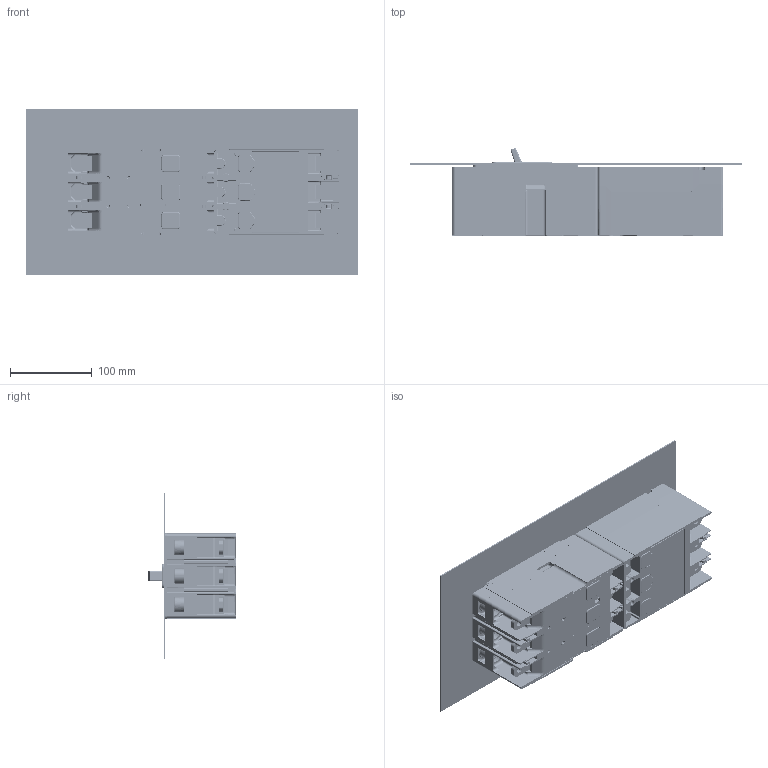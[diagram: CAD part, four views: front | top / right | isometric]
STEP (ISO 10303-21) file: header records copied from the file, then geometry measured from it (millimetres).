
FILE_DESCRIPTION((''),'2;1');
FILE_NAME('JG_BKR_JG_CL_ASM','2012-04-16T',('E0027121'),(''),'PRO/ENGINEER BY PARAMETRIC TECHNOLOGY CORPORATION, 2009460','PRO/ENGINEER BY PARAMETRIC TECHNOLOGY CORPORATION, 2009460','');
FILE_SCHEMA(('CONFIG_CONTROL_DESIGN'));
Length unit declared in the file: inch
Products named in the file (34): 69D2505H03; 68C2505H06; 68C2504H05; 68C2503H10; 69D2507H02; SK_JMECH; 66A2519; 69D2509H06; 68C2514; 69D2752H08; 69D2750H02; 69D2785_CUTS; 67B2522H03; 67B2505_ON; 66A2533_BEND; 67B2519H05; 66A2603H05; 67B2750H04; 766A920H18; 70010LX141; 70010LX11X; 68C2719H01; JG_BRKR_ASM; 69D2780H01; 67B2780; 6648C01G26; 67B2550G03_ASM; 69D2781H01; 66A2544; 70010LX17E; 66A2782H01; 67B2781H01; JG_CLG01_ASM; JG_BKR_JG_CL_ASM
Assembly tree (74 placements, depth 4):
  JG_BKR_JG_CL_ASM
    JG_BRKR_ASM
      69D2505H03
      68C2505H06
      68C2504H05
      68C2503H10
      69D2507H02
      SK_JMECH
      66A2519  x3
      69D2509H06
      68C2514
      69D2752H08
      69D2750H02
      69D2785_CUTS
      67B2522H03  x3
      67B2505_ON
      66A2533_BEND
      67B2519H05
      66A2603H05
      67B2750H04
      766A920H18  x10
      70010LX141  x2
      70010LX11X  x7
      68C2719H01  x3
    JG_CLG01_ASM
      69D2780H01
      67B2780
      67B2550G03_ASM  x3
        67B2522H03
        6648C01G26
      69D2781H01
      66A2544  x3
      70010LX141  x8
      70010LX17E  x3
      66A2782H01  x3
      67B2781H01  x3
Bounding box: 406.4 x 108.16 x 203.2 mm (x, y, z)
Volume: 1320843.6 mm3; surface area: 766080.9 mm2
Topology: 72 solids, 72 shells, 9668 faces, 24698 edges, 15276 vertices
Faces by surface type: plane 4653, cylinder 3016, bspline 727, torus 459, cone 438, sphere 365, extrusion 10
Entity records: 289096 total; most frequent: CARTESIAN_POINT 82022, ORIENTED_EDGE 44244, DIRECTION 41839, EDGE_CURVE 22122, AXIS2_PLACEMENT_3D 14010, VECTOR 13819, LINE 13809, VERTEX_POINT 13691
